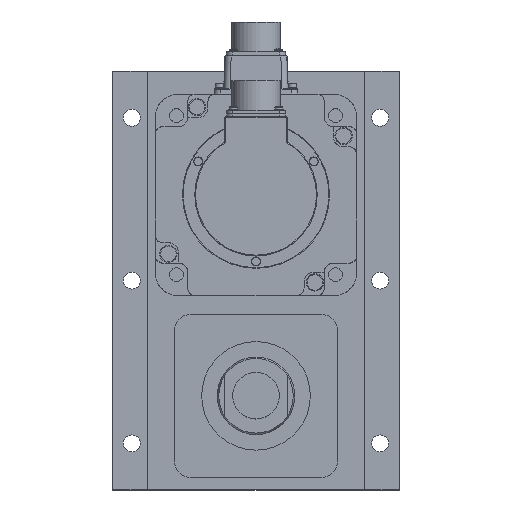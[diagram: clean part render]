
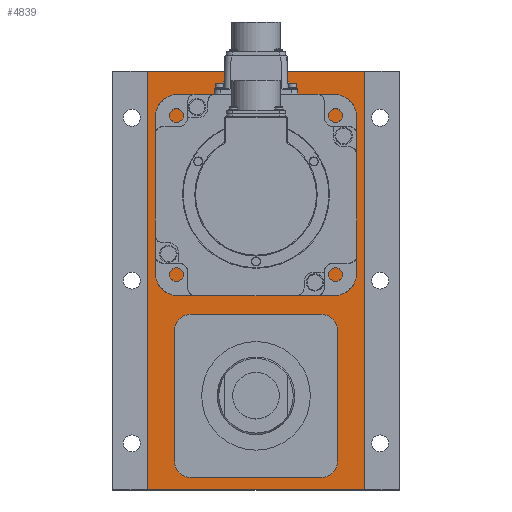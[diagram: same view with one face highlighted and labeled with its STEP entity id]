
A CAD part, top view. The second image highlights one B-rep face of the part: STEP entity #4839.
In plain terms, the highlighted planar face has unit normal (0, 0, 1).
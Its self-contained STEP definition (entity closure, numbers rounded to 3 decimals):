
#557 = ORIENTED_EDGE ( 'NONE', *, *, #25197, .T. ) ;
#1339 = CARTESIAN_POINT ( 'NONE',  ( 20.746, 130., -55. ) ) ;
#1629 = VECTOR ( 'NONE', #10023, 1000. ) ;
#1803 = EDGE_CURVE ( 'NONE', #26259, #11547, #3325, .T. ) ;
#1876 = EDGE_CURVE ( 'NONE', #7706, #23092, #24221, .T. ) ;
#1889 = CARTESIAN_POINT ( 'NONE',  ( -70., 210., -55. ) ) ;
#2017 = LINE ( 'NONE', #10901, #26300 ) ;
#2142 = LINE ( 'NONE', #6368, #9202 ) ;
#2194 = VECTOR ( 'NONE', #15007, 1000. ) ;
#2349 = ORIENTED_EDGE ( 'NONE', *, *, #20940, .F. ) ;
#2838 = VERTEX_POINT ( 'NONE', #5777 ) ;
#2918 = CARTESIAN_POINT ( 'NONE',  ( -36.5, -46.5, -55. ) ) ;
#3227 = DIRECTION ( 'NONE',  ( -1., 0., 0. ) ) ;
#3290 = EDGE_CURVE ( 'NONE', #2838, #16672, #23190, .T. ) ;
#3325 = LINE ( 'NONE', #5197, #6056 ) ;
#3696 = DIRECTION ( 'NONE',  ( 1., 0., 0. ) ) ;
#3905 = ORIENTED_EDGE ( 'NONE', *, *, #15937, .F. ) ;
#4424 = CARTESIAN_POINT ( 'NONE',  ( 36.5, 36.5, -55. ) ) ;
#4787 = ORIENTED_EDGE ( 'NONE', *, *, #17795, .F. ) ;
#4839 = ADVANCED_FACE ( 'NONE', ( #20566, #15451, #25295 ), #26695, .T. ) ;
#5113 = DIRECTION ( 'NONE',  ( -1., 0., 0. ) ) ;
#5197 = CARTESIAN_POINT ( 'NONE',  ( 70., -60., -55. ) ) ;
#5273 = CARTESIAN_POINT ( 'NONE',  ( -70., -60., -55. ) ) ;
#5337 = CIRCLE ( 'NONE', #11985, 20.746 ) ;
#5464 = EDGE_CURVE ( 'NONE', #13334, #10283, #7357, .T. ) ;
#5564 = CARTESIAN_POINT ( 'NONE',  ( 0., 130., -55. ) ) ;
#5567 = CARTESIAN_POINT ( 'NONE',  ( -36.5, 46.5, -55. ) ) ;
#5743 = CARTESIAN_POINT ( 'NONE',  ( -36.5, 36.5, -55. ) ) ;
#5777 = CARTESIAN_POINT ( 'NONE',  ( -46.5, 36.5, -55. ) ) ;
#5941 = ORIENTED_EDGE ( 'NONE', *, *, #10392, .F. ) ;
#6056 = VECTOR ( 'NONE', #3227, 1000. ) ;
#6176 = ORIENTED_EDGE ( 'NONE', *, *, #1876, .T. ) ;
#6368 = CARTESIAN_POINT ( 'NONE',  ( -70., -60., -55. ) ) ;
#6528 = VERTEX_POINT ( 'NONE', #1889 ) ;
#6883 = DIRECTION ( 'NONE',  ( 0., 0., -1. ) ) ;
#7159 = CARTESIAN_POINT ( 'NONE',  ( -36.5, -36.5, -55. ) ) ;
#7357 = LINE ( 'NONE', #22967, #1629 ) ;
#7603 = ORIENTED_EDGE ( 'NONE', *, *, #19419, .T. ) ;
#7706 = VERTEX_POINT ( 'NONE', #11100 ) ;
#7942 = LINE ( 'NONE', #10771, #2194 ) ;
#8170 = VERTEX_POINT ( 'NONE', #16972 ) ;
#8491 = LINE ( 'NONE', #18157, #23002 ) ;
#9131 = CARTESIAN_POINT ( 'NONE',  ( 36.5, -36.5, -55. ) ) ;
#9202 = VECTOR ( 'NONE', #14830, 1000. ) ;
#9422 = DIRECTION ( 'NONE',  ( 0., 0., 1. ) ) ;
#9508 = DIRECTION ( 'NONE',  ( 0., 0., -1. ) ) ;
#10020 = EDGE_CURVE ( 'NONE', #10283, #7706, #11447, .T. ) ;
#10023 = DIRECTION ( 'NONE',  ( 0., -1., 0. ) ) ;
#10199 = CARTESIAN_POINT ( 'NONE',  ( 0., 130., -55. ) ) ;
#10283 = VERTEX_POINT ( 'NONE', #12338 ) ;
#10392 = EDGE_CURVE ( 'NONE', #6528, #20332, #2017, .T. ) ;
#10653 = VERTEX_POINT ( 'NONE', #23929 ) ;
#10771 = CARTESIAN_POINT ( 'NONE',  ( -46.5, 36.5, -55. ) ) ;
#10901 = CARTESIAN_POINT ( 'NONE',  ( 70., 210., -55. ) ) ;
#10931 = EDGE_CURVE ( 'NONE', #10653, #13334, #15257, .T. ) ;
#11100 = CARTESIAN_POINT ( 'NONE',  ( 36.5, -46.5, -55. ) ) ;
#11447 = CIRCLE ( 'NONE', #19668, 10. ) ;
#11547 = VERTEX_POINT ( 'NONE', #5273 ) ;
#11985 = AXIS2_PLACEMENT_3D ( 'NONE', #5564, #26957, #16124 ) ;
#12266 = DIRECTION ( 'NONE',  ( 1., 0., 0. ) ) ;
#12338 = CARTESIAN_POINT ( 'NONE',  ( 46.5, -36.5, -55. ) ) ;
#12576 = ORIENTED_EDGE ( 'NONE', *, *, #10020, .T. ) ;
#13206 = CARTESIAN_POINT ( 'NONE',  ( 46.5, 36.5, -55. ) ) ;
#13334 = VERTEX_POINT ( 'NONE', #13206 ) ;
#13403 = CARTESIAN_POINT ( 'NONE',  ( 70., -60., -55. ) ) ;
#13713 = VERTEX_POINT ( 'NONE', #1339 ) ;
#13974 = ORIENTED_EDGE ( 'NONE', *, *, #14795, .T. ) ;
#14067 = CIRCLE ( 'NONE', #21709, 10. ) ;
#14130 = CARTESIAN_POINT ( 'NONE',  ( 0., 0., -55. ) ) ;
#14293 = DIRECTION ( 'NONE',  ( 0., 0., -1. ) ) ;
#14395 = CARTESIAN_POINT ( 'NONE',  ( 36.5, -46.5, -55. ) ) ;
#14795 = EDGE_CURVE ( 'NONE', #23092, #8170, #14067, .T. ) ;
#14830 = DIRECTION ( 'NONE',  ( 0., 1., 0. ) ) ;
#15007 = DIRECTION ( 'NONE',  ( 0., 1., 0. ) ) ;
#15229 = ORIENTED_EDGE ( 'NONE', *, *, #10931, .T. ) ;
#15257 = CIRCLE ( 'NONE', #16534, 10. ) ;
#15451 = FACE_BOUND ( 'NONE', #22173, .T. ) ;
#15937 = EDGE_CURVE ( 'NONE', #20332, #26259, #17416, .T. ) ;
#16124 = DIRECTION ( 'NONE',  ( 1., 0., 0. ) ) ;
#16170 = ORIENTED_EDGE ( 'NONE', *, *, #5464, .T. ) ;
#16318 = CIRCLE ( 'NONE', #21752, 20.746 ) ;
#16534 = AXIS2_PLACEMENT_3D ( 'NONE', #4424, #19327, #25824 ) ;
#16672 = VERTEX_POINT ( 'NONE', #5567 ) ;
#16744 = VECTOR ( 'NONE', #26715, 1000. ) ;
#16972 = CARTESIAN_POINT ( 'NONE',  ( -46.5, -36.5, -55. ) ) ;
#17167 = DIRECTION ( 'NONE',  ( 1., 0., 0. ) ) ;
#17256 = EDGE_CURVE ( 'NONE', #17974, #13713, #16318, .T. ) ;
#17416 = LINE ( 'NONE', #13403, #16744 ) ;
#17631 = CARTESIAN_POINT ( 'NONE',  ( -20.746, 130., -55. ) ) ;
#17744 = DIRECTION ( 'NONE',  ( -1., 0., 0. ) ) ;
#17795 = EDGE_CURVE ( 'NONE', #13713, #17974, #5337, .T. ) ;
#17964 = DIRECTION ( 'NONE',  ( 1., 0., 0. ) ) ;
#17974 = VERTEX_POINT ( 'NONE', #17631 ) ;
#18145 = ORIENTED_EDGE ( 'NONE', *, *, #3290, .T. ) ;
#18157 = CARTESIAN_POINT ( 'NONE',  ( 36.5, 46.5, -55. ) ) ;
#18527 = VECTOR ( 'NONE', #27505, 1000. ) ;
#19327 = DIRECTION ( 'NONE',  ( 0., 0., -1. ) ) ;
#19419 = EDGE_CURVE ( 'NONE', #8170, #2838, #7942, .T. ) ;
#19668 = AXIS2_PLACEMENT_3D ( 'NONE', #9131, #9508, #5113 ) ;
#20282 = ORIENTED_EDGE ( 'NONE', *, *, #1803, .F. ) ;
#20332 = VERTEX_POINT ( 'NONE', #20772 ) ;
#20566 = FACE_BOUND ( 'NONE', #26099, .T. ) ;
#20772 = CARTESIAN_POINT ( 'NONE',  ( 70., 210., -55. ) ) ;
#20940 = EDGE_CURVE ( 'NONE', #11547, #6528, #2142, .T. ) ;
#21155 = AXIS2_PLACEMENT_3D ( 'NONE', #14130, #9422, #26792 ) ;
#21390 = ORIENTED_EDGE ( 'NONE', *, *, #17256, .F. ) ;
#21709 = AXIS2_PLACEMENT_3D ( 'NONE', #7159, #6883, #17744 ) ;
#21752 = AXIS2_PLACEMENT_3D ( 'NONE', #10199, #22962, #12266 ) ;
#22173 = EDGE_LOOP ( 'NONE', ( #7603, #18145, #557, #15229, #16170, #12576, #6176, #13974 ) ) ;
#22627 = CARTESIAN_POINT ( 'NONE',  ( 70., -60., -55. ) ) ;
#22962 = DIRECTION ( 'NONE',  ( 0., 0., 1. ) ) ;
#22967 = CARTESIAN_POINT ( 'NONE',  ( 46.5, 36.5, -55. ) ) ;
#23002 = VECTOR ( 'NONE', #17964, 1000. ) ;
#23092 = VERTEX_POINT ( 'NONE', #2918 ) ;
#23190 = CIRCLE ( 'NONE', #27222, 10. ) ;
#23929 = CARTESIAN_POINT ( 'NONE',  ( 36.5, 46.5, -55. ) ) ;
#24221 = LINE ( 'NONE', #14395, #18527 ) ;
#25197 = EDGE_CURVE ( 'NONE', #16672, #10653, #8491, .T. ) ;
#25295 = FACE_OUTER_BOUND ( 'NONE', #26686, .T. ) ;
#25824 = DIRECTION ( 'NONE',  ( -1., 0., 0. ) ) ;
#26099 = EDGE_LOOP ( 'NONE', ( #4787, #21390 ) ) ;
#26259 = VERTEX_POINT ( 'NONE', #22627 ) ;
#26300 = VECTOR ( 'NONE', #17167, 1000. ) ;
#26686 = EDGE_LOOP ( 'NONE', ( #3905, #5941, #2349, #20282 ) ) ;
#26695 = PLANE ( 'NONE',  #21155 ) ;
#26715 = DIRECTION ( 'NONE',  ( 0., -1., 0. ) ) ;
#26792 = DIRECTION ( 'NONE',  ( 1., 0., 0. ) ) ;
#26957 = DIRECTION ( 'NONE',  ( 0., 0., 1. ) ) ;
#27222 = AXIS2_PLACEMENT_3D ( 'NONE', #5743, #14293, #3696 ) ;
#27505 = DIRECTION ( 'NONE',  ( -1., 0., 0. ) ) ;
